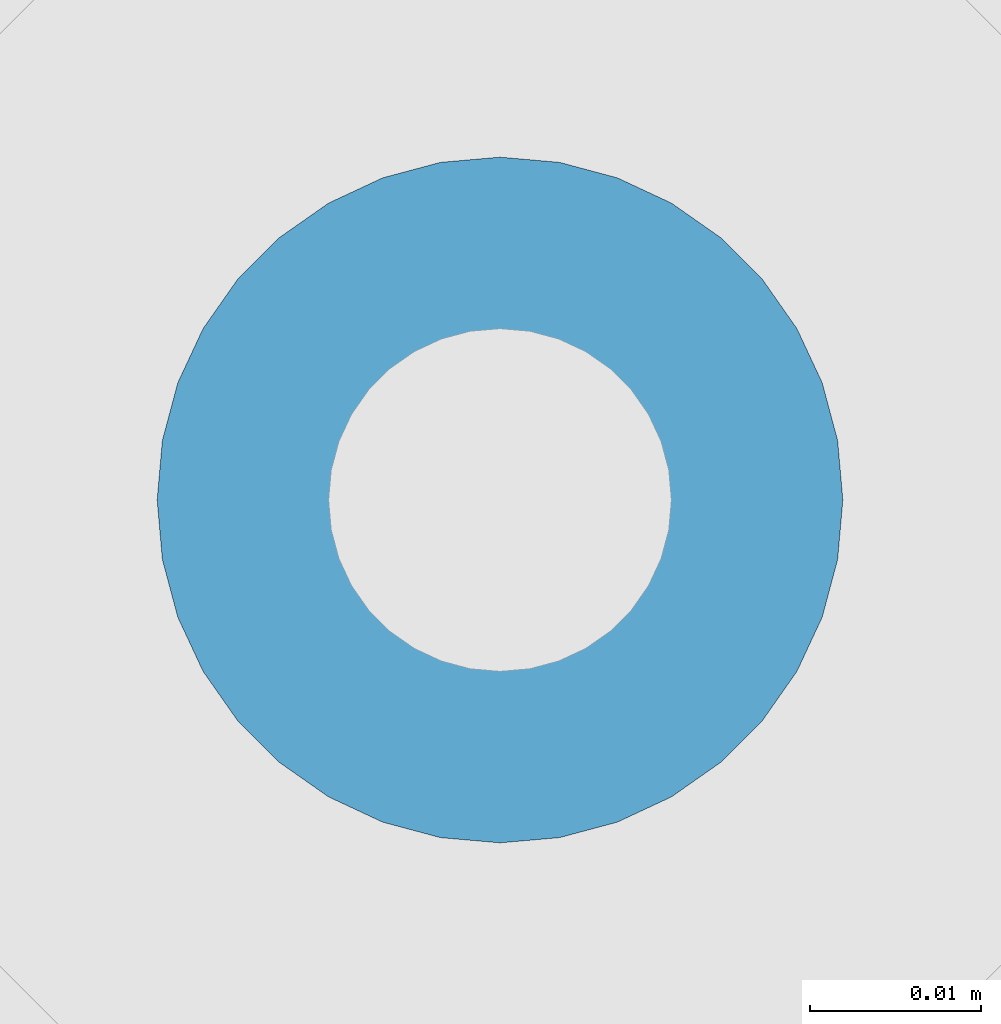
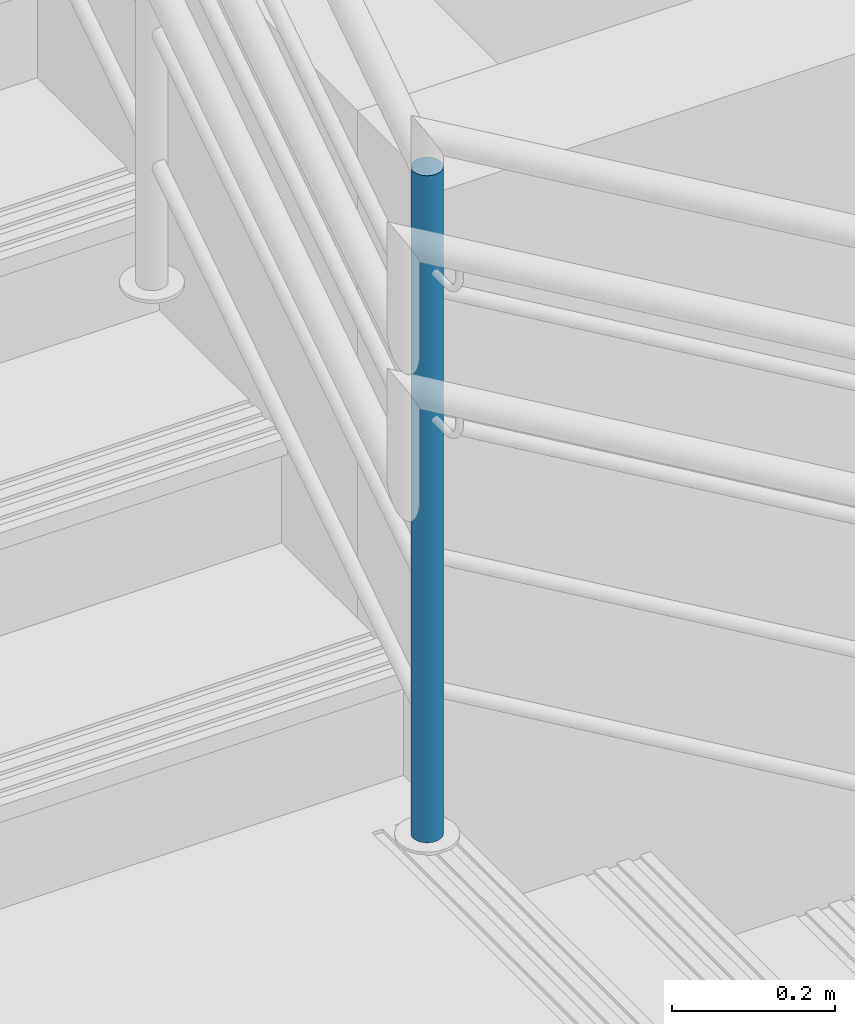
# One storey, part 63 of 237: 1 building element part, 1 element without a shape of its own.
"""IFC2X3 building model written with IfcOpenShell, lengths in millimetres."""

from ifc_helpers import new_model, entity, si_unit, converted_unit, derived_unit, money_unit, direction, frame, origin_with_axes, place, context, subcontext, project, spatial, faceted_brep, material, type_object, element, aggregate, save


model = new_model("IFC2X3")

# Units and contexts
model_context = context("Model", 3, precision=0.01, world=origin_with_axes(), true_north=direction((0.0, 1.0)))
body_context = subcontext(model_context, "Body", "Model", "MODEL_VIEW")
ifc_project = project(units=[si_unit("LENGTHUNIT", "METRE", prefix="MILLI"), si_unit("AREAUNIT", "SQUARE_METRE"), si_unit("VOLUMEUNIT", "CUBIC_METRE"), converted_unit("PLANEANGLEUNIT", "DEGREE", entity("IfcPlaneAngleMeasure", 0.0174532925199), si_unit("PLANEANGLEUNIT", "RADIAN"), dimensions=[0, 0, 0, 0, 0, 0, 0]), money_unit("USD"), converted_unit("TIMEUNIT", "Year", entity("IfcTimeMeasure", 31556926.0), si_unit("TIMEUNIT", "SECOND"), dimensions=[0, 0, 1, 0, 0, 0, 0]), si_unit("MASSUNIT", "GRAM", prefix="KILO"), si_unit("THERMODYNAMICTEMPERATUREUNIT", "DEGREE_CELSIUS"), si_unit("LUMINOUSINTENSITYUNIT", "LUMEN"), si_unit("ENERGYUNIT", "JOULE", prefix="MEGA"), derived_unit("THERMALCONDUCTANCEUNIT", [(si_unit("POWERUNIT", "WATT"), 1), (si_unit("LENGTHUNIT", "METRE"), -1), (si_unit("THERMODYNAMICTEMPERATUREUNIT", "KELVIN"), -1)]), derived_unit("SPECIFICHEATCAPACITYUNIT", [(si_unit("ENERGYUNIT", "JOULE"), 1), (si_unit("MASSUNIT", "GRAM", prefix="KILO"), -1), (si_unit("THERMODYNAMICTEMPERATUREUNIT", "KELVIN"), -1)]), derived_unit("MASSDENSITYUNIT", [(si_unit("MASSUNIT", "GRAM", prefix="KILO"), 1), (si_unit("VOLUMEUNIT", "CUBIC_METRE"), -1)])], contexts=[model_context])

# Site, building, storey
site_placement = place(None, origin_with_axes())
site = spatial("IfcSite", under=ifc_project, at=site_placement, Name="Local", CompositionType="ELEMENT")
building_placement = place(site_placement, origin_with_axes())
building = spatial("IfcBuilding", under=site, at=building_placement, Name="Construção", CompositionType="ELEMENT")
storey_placement = place(building_placement, origin_with_axes())
storey = spatial("IfcBuildingStorey", under=building, at=storey_placement, Name="Pavimento Térreo", CompositionType="ELEMENT", Elevation=0.0)

# Railing, building element part
railing_type = type_object("IfcRailingType", Name="Tipo de Guarda-Corpo", PredefinedType="NOTDEFINED")
railing_placement = place(storey_placement, frame((84562.8908804, 21657.2175927, -4868.39227091), z_axis=(0.0, 0.0, 1.0), x_axis=(1.0, 0.0, 0.0)))
railing = element("IfcRailing", 1, at=railing_placement, inside=storey, type_object=railing_type, Name="Guarda-Corpo - 002", PredefinedType="NOTDEFINED")
ifc_material = material(Name="Aço - Inoxidável")
building_element_part_placement = place(railing_placement, origin_with_axes())
building_element_part = element("IfcBuildingElementPart", 2, at=building_element_part_placement, material=ifc_material, Name="Aço - Inoxidável", context=body_context, shape_type="Brep", body=[
    faceted_brep([(-3830.45842112, 694.897826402, 531.629885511), (-3833.93138467, 695.201671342, 531.629885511), (-3833.93138467, 695.201671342, 1531.79156195), (-3830.45842112, 694.897826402, 1531.79156195), (-3837.40434823, 694.897826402, 531.629885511), (-3827.09098181, 693.995523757, 531.629885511), (-3823.93138467, 692.522179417, 531.629885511), (-3821.07563248, 690.522560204, 531.629885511), (-3818.61049581, 688.057423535, 531.629885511), (-3816.6108766, 685.201671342, 531.629885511), (-3815.13753226, 682.042074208, 531.629885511), (-3814.23522961, 678.674634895, 531.629885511), (-3813.93138467, 675.201671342, 531.629885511), (-3814.23522961, 671.728707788, 531.629885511), (-3815.13753226, 668.361268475, 531.629885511), (-3816.6108766, 665.201671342, 531.629885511), (-3818.61049581, 662.345919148, 531.629885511), (-3821.07563248, 659.880782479, 531.629885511), (-3823.93138467, 657.881163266, 531.629885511), (-3827.09098181, 656.407818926, 531.629885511), (-3830.45842112, 655.505516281, 531.629885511), (-3833.93138467, 655.201671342, 531.629885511), (-3837.40434823, 655.505516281, 531.629885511), (-3840.77178754, 656.407818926, 531.629885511), (-3843.93138467, 657.881163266, 531.629885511), (-3846.78713687, 659.880782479, 531.629885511), (-3849.25227353, 662.345919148, 531.629885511), (-3851.25189275, 665.201671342, 531.629885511), (-3852.72523709, 668.361268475, 531.629885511), (-3853.62753973, 671.728707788, 531.629885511), (-3853.93138467, 675.201671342, 531.629885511), (-3853.62753973, 678.674634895, 531.629885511), (-3852.72523709, 682.042074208, 531.629885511), (-3851.25189275, 685.201671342, 531.629885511), (-3849.25227353, 688.057423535, 531.629885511), (-3846.78713687, 690.522560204, 531.629885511), (-3843.93138467, 692.522179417, 531.629885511), (-3840.77178754, 693.995523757, 531.629885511), (-3837.40434823, 694.897826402, 1531.79156195), (-3814.23522961, 671.728707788, 1531.79156195), (-3813.93138467, 675.201671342, 1531.79156195), (-3814.23522961, 678.674634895, 1531.79156195), (-3815.13753226, 682.042074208, 1531.79156195), (-3816.6108766, 685.201671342, 1531.79156195), (-3818.61049581, 688.057423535, 1531.79156195), (-3821.07563248, 690.522560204, 1531.79156195), (-3823.93138467, 692.522179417, 1531.79156195), (-3827.09098181, 693.995523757, 1531.79156195), (-3840.77178754, 693.995523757, 1531.79156195), (-3843.93138467, 692.522179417, 1531.79156195), (-3846.78713687, 690.522560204, 1531.79156195), (-3849.25227353, 688.057423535, 1531.79156195), (-3851.25189275, 685.201671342, 1531.79156195), (-3852.72523709, 682.042074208, 1531.79156195), (-3853.62753973, 678.674634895, 1531.79156195), (-3853.93138467, 675.201671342, 1531.79156195), (-3853.62753973, 671.728707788, 1531.79156195), (-3852.72523709, 668.361268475, 1531.79156195), (-3851.25189275, 665.201671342, 1531.79156195), (-3849.25227353, 662.345919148, 1531.79156195), (-3846.78713687, 659.880782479, 1531.79156195), (-3843.93138467, 657.881163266, 1531.79156195), (-3840.77178754, 656.407818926, 1531.79156195), (-3837.40434823, 655.505516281, 1531.79156195), (-3833.93138467, 655.201671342, 1531.79156195), (-3830.45842112, 655.505516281, 1531.79156195), (-3827.09098181, 656.407818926, 1531.79156195), (-3823.93138467, 657.881163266, 1531.79156195), (-3821.07563248, 659.880782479, 1531.79156195), (-3818.61049581, 662.345919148, 1531.79156195), (-3816.6108766, 665.201671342, 1531.79156195), (-3815.13753226, 668.361268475, 1531.79156195)], [[[0, 1, 2, 3]], [[4, 1, 0, 5, 6, 7, 8, 9, 10, 11, 12, 13, 14, 15, 16, 17, 18, 19, 20, 21, 22, 23, 24, 25, 26, 27, 28, 29, 30, 31, 32, 33, 34, 35, 36, 37]], [[1, 4, 38, 2]], [[39, 40, 41, 42, 43, 44, 45, 46, 47, 3, 2, 38, 48, 49, 50, 51, 52, 53, 54, 55, 56, 57, 58, 59, 60, 61, 62, 63, 64, 65, 66, 67, 68, 69, 70, 71]], [[5, 0, 3, 47]], [[6, 5, 47, 46]], [[7, 6, 46, 45]], [[8, 7, 45, 44]], [[9, 8, 44, 43]], [[10, 9, 43, 42]], [[11, 10, 42, 41]], [[12, 11, 41, 40]], [[13, 12, 40, 39]], [[14, 13, 39, 71]], [[15, 14, 71, 70]], [[16, 15, 70, 69]], [[17, 16, 69, 68]], [[18, 17, 68, 67]], [[19, 18, 67, 66]], [[20, 19, 66, 65]], [[21, 20, 65, 64]], [[22, 21, 64, 63]], [[23, 22, 63, 62]], [[24, 23, 62, 61]], [[25, 24, 61, 60]], [[26, 25, 60, 59]], [[27, 26, 59, 58]], [[28, 27, 58, 57]], [[29, 28, 57, 56]], [[30, 29, 56, 55]], [[31, 30, 55, 54]], [[32, 31, 54, 53]], [[33, 32, 53, 52]], [[34, 33, 52, 51]], [[35, 34, 51, 50]], [[36, 35, 50, 49]], [[37, 36, 49, 48]], [[4, 37, 48, 38]]]),
])
aggregate(railing, [building_element_part])

save(model, "model.ifc")
